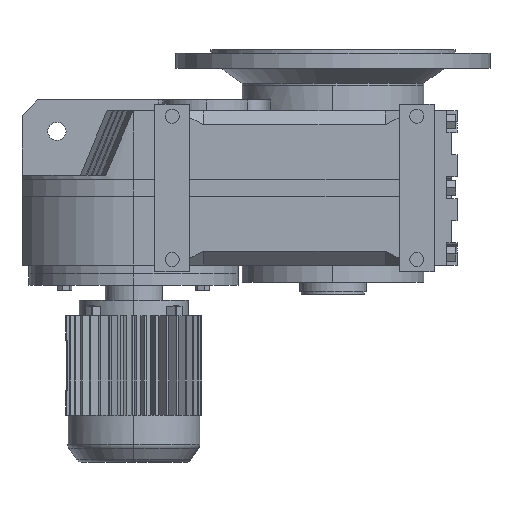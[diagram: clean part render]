
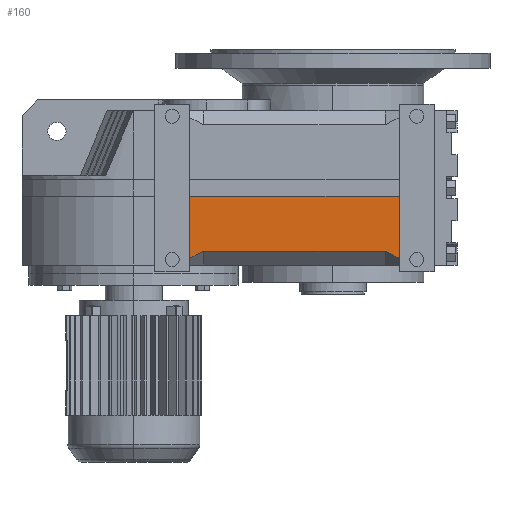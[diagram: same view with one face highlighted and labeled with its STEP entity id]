
A CAD part, left-side view. The second image highlights one B-rep face of the part: STEP entity #160.
In plain terms, the highlighted planar face has unit normal (-1, 0, 0).
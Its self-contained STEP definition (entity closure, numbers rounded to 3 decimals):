
#55 = PLANE('',#56);
#56 = AXIS2_PLACEMENT_3D('',#57,#58,#59);
#57 = CARTESIAN_POINT('',(-166.747,-80.,-1.347));
#58 = DIRECTION('',(0.664,0.342,0.664));
#59 = DIRECTION('',(0.707,0.,-0.707)
  );
#80 = VERTEX_POINT('',#81);
#81 = CARTESIAN_POINT('',(-190.4,-100.,32.6));
#95 = PLANE('',#96);
#96 = AXIS2_PLACEMENT_3D('',#97,#98,#99);
#97 = CARTESIAN_POINT('',(-190.4,-463.,32.6));
#98 = DIRECTION('',(0.707,0.,0.707));
#99 = DIRECTION('',(0.707,0.,-0.707));
#107 = EDGE_CURVE('',#108,#80,#110,.T.);
#108 = VERTEX_POINT('',#109);
#109 = CARTESIAN_POINT('',(-190.4,-80.,22.305));
#110 = SURFACE_CURVE('',#111,(#115,#122),.PCURVE_S1.);
#111 = LINE('',#112,#113);
#112 = CARTESIAN_POINT('',(-190.4,-468.678,222.37));
#113 = VECTOR('',#114,1.);
#114 = DIRECTION('',(0.,-0.889,0.458));
#115 = PCURVE('',#55,#116);
#116 = DEFINITIONAL_REPRESENTATION('',(#117),#121);
#117 = LINE('',#118,#119);
#118 = CARTESIAN_POINT('',(-174.917,-413.622));
#119 = VECTOR('',#120,1.);
#120 = DIRECTION('',(-0.324,-0.946));
#121 = ( GEOMETRIC_REPRESENTATION_CONTEXT(2) 
PARAMETRIC_REPRESENTATION_CONTEXT() REPRESENTATION_CONTEXT('2D SPACE',''
  ) );
#122 = PCURVE('',#123,#128);
#123 = PLANE('',#124);
#124 = AXIS2_PLACEMENT_3D('',#125,#126,#127);
#125 = CARTESIAN_POINT('',(-190.4,-463.,233.4));
#126 = DIRECTION('',(1.,0.,0.));
#127 = DIRECTION('',(0.,0.,-1.));
#128 = DEFINITIONAL_REPRESENTATION('',(#129),#133);
#129 = LINE('',#130,#131);
#130 = CARTESIAN_POINT('',(11.03,-5.678));
#131 = VECTOR('',#132,1.);
#132 = DIRECTION('',(-0.458,-0.889));
#133 = ( GEOMETRIC_REPRESENTATION_CONTEXT(2) 
PARAMETRIC_REPRESENTATION_CONTEXT() REPRESENTATION_CONTEXT('2D SPACE',''
  ) );
#149 = PLANE('',#150);
#150 = AXIS2_PLACEMENT_3D('',#151,#152,#153);
#151 = CARTESIAN_POINT('',(-162.4,-80.,3.));
#152 = DIRECTION('',(0.,-1.,0.));
#153 = DIRECTION('',(0.,0.,-1.));
#160 = ADVANCED_FACE('',(#161),#123,.F.);
#161 = FACE_BOUND('',#162,.T.);
#162 = EDGE_LOOP('',(#163,#186,#187,#210,#238,#266));
#163 = ORIENTED_EDGE('',*,*,#164,.T.);
#164 = EDGE_CURVE('',#165,#108,#167,.T.);
#165 = VERTEX_POINT('',#166);
#166 = CARTESIAN_POINT('',(-190.4,-80.,111.));
#167 = SURFACE_CURVE('',#168,(#172,#179),.PCURVE_S1.);
#168 = LINE('',#169,#170);
#169 = CARTESIAN_POINT('',(-190.4,-80.,233.4));
#170 = VECTOR('',#171,1.);
#171 = DIRECTION('',(0.,0.,-1.));
#172 = PCURVE('',#123,#173);
#173 = DEFINITIONAL_REPRESENTATION('',(#174),#178);
#174 = LINE('',#175,#176);
#175 = CARTESIAN_POINT('',(0.,383.));
#176 = VECTOR('',#177,1.);
#177 = DIRECTION('',(1.,0.));
#178 = ( GEOMETRIC_REPRESENTATION_CONTEXT(2) 
PARAMETRIC_REPRESENTATION_CONTEXT() REPRESENTATION_CONTEXT('2D SPACE',''
  ) );
#179 = PCURVE('',#149,#180);
#180 = DEFINITIONAL_REPRESENTATION('',(#181),#185);
#181 = LINE('',#182,#183);
#182 = CARTESIAN_POINT('',(-230.4,-28.));
#183 = VECTOR('',#184,1.);
#184 = DIRECTION('',(1.,0.));
#185 = ( GEOMETRIC_REPRESENTATION_CONTEXT(2) 
PARAMETRIC_REPRESENTATION_CONTEXT() REPRESENTATION_CONTEXT('2D SPACE',''
  ) );
#186 = ORIENTED_EDGE('',*,*,#107,.T.);
#187 = ORIENTED_EDGE('',*,*,#188,.T.);
#188 = EDGE_CURVE('',#80,#189,#191,.T.);
#189 = VERTEX_POINT('',#190);
#190 = CARTESIAN_POINT('',(-190.4,-360.,32.6));
#191 = SURFACE_CURVE('',#192,(#196,#203),.PCURVE_S1.);
#192 = LINE('',#193,#194);
#193 = CARTESIAN_POINT('',(-190.4,-463.,32.6));
#194 = VECTOR('',#195,1.);
#195 = DIRECTION('',(0.,-1.,0.));
#196 = PCURVE('',#123,#197);
#197 = DEFINITIONAL_REPRESENTATION('',(#198),#202);
#198 = LINE('',#199,#200);
#199 = CARTESIAN_POINT('',(200.8,0.));
#200 = VECTOR('',#201,1.);
#201 = DIRECTION('',(0.,-1.));
#202 = ( GEOMETRIC_REPRESENTATION_CONTEXT(2) 
PARAMETRIC_REPRESENTATION_CONTEXT() REPRESENTATION_CONTEXT('2D SPACE',''
  ) );
#203 = PCURVE('',#95,#204);
#204 = DEFINITIONAL_REPRESENTATION('',(#205),#209);
#205 = LINE('',#206,#207);
#206 = CARTESIAN_POINT('',(0.,0.));
#207 = VECTOR('',#208,1.);
#208 = DIRECTION('',(0.,-1.));
#209 = ( GEOMETRIC_REPRESENTATION_CONTEXT(2) 
PARAMETRIC_REPRESENTATION_CONTEXT() REPRESENTATION_CONTEXT('2D SPACE',''
  ) );
#210 = ORIENTED_EDGE('',*,*,#211,.T.);
#211 = EDGE_CURVE('',#189,#212,#214,.T.);
#212 = VERTEX_POINT('',#213);
#213 = CARTESIAN_POINT('',(-190.4,-380.,22.305));
#214 = SURFACE_CURVE('',#215,(#219,#226),.PCURVE_S1.);
#215 = LINE('',#216,#217);
#216 = CARTESIAN_POINT('',(-190.4,-359.717,32.746));
#217 = VECTOR('',#218,1.);
#218 = DIRECTION('',(0.,-0.889,-0.458));
#219 = PCURVE('',#123,#220);
#220 = DEFINITIONAL_REPRESENTATION('',(#221),#225);
#221 = LINE('',#222,#223);
#222 = CARTESIAN_POINT('',(200.654,103.283));
#223 = VECTOR('',#224,1.);
#224 = DIRECTION('',(0.458,-0.889));
#225 = ( GEOMETRIC_REPRESENTATION_CONTEXT(2) 
PARAMETRIC_REPRESENTATION_CONTEXT() REPRESENTATION_CONTEXT('2D SPACE',''
  ) );
#226 = PCURVE('',#227,#232);
#227 = PLANE('',#228);
#228 = AXIS2_PLACEMENT_3D('',#229,#230,#231);
#229 = CARTESIAN_POINT('',(-166.747,-380.,-1.347));
#230 = DIRECTION('',(0.664,-0.342,0.664));
#231 = DIRECTION('',(0.707,0.,-0.707));
#232 = DEFINITIONAL_REPRESENTATION('',(#233),#237);
#233 = LINE('',#234,#235);
#234 = CARTESIAN_POINT('',(-40.832,21.585));
#235 = VECTOR('',#236,1.);
#236 = DIRECTION('',(0.324,-0.946));
#237 = ( GEOMETRIC_REPRESENTATION_CONTEXT(2) 
PARAMETRIC_REPRESENTATION_CONTEXT() REPRESENTATION_CONTEXT('2D SPACE',''
  ) );
#238 = ORIENTED_EDGE('',*,*,#239,.T.);
#239 = EDGE_CURVE('',#212,#240,#242,.T.);
#240 = VERTEX_POINT('',#241);
#241 = CARTESIAN_POINT('',(-190.4,-380.,111.));
#242 = SURFACE_CURVE('',#243,(#247,#254),.PCURVE_S1.);
#243 = LINE('',#244,#245);
#244 = CARTESIAN_POINT('',(-190.4,-380.,233.4));
#245 = VECTOR('',#246,1.);
#246 = DIRECTION('',(0.,0.,1.));
#247 = PCURVE('',#123,#248);
#248 = DEFINITIONAL_REPRESENTATION('',(#249),#253);
#249 = LINE('',#250,#251);
#250 = CARTESIAN_POINT('',(0.,83.));
#251 = VECTOR('',#252,1.);
#252 = DIRECTION('',(-1.,0.));
#253 = ( GEOMETRIC_REPRESENTATION_CONTEXT(2) 
PARAMETRIC_REPRESENTATION_CONTEXT() REPRESENTATION_CONTEXT('2D SPACE',''
  ) );
#254 = PCURVE('',#255,#260);
#255 = PLANE('',#256);
#256 = AXIS2_PLACEMENT_3D('',#257,#258,#259);
#257 = CARTESIAN_POINT('',(-162.4,-380.,3.));
#258 = DIRECTION('',(0.,1.,0.));
#259 = DIRECTION('',(0.,0.,1.));
#260 = DEFINITIONAL_REPRESENTATION('',(#261),#265);
#261 = LINE('',#262,#263);
#262 = CARTESIAN_POINT('',(230.4,-28.));
#263 = VECTOR('',#264,1.);
#264 = DIRECTION('',(1.,0.));
#265 = ( GEOMETRIC_REPRESENTATION_CONTEXT(2) 
PARAMETRIC_REPRESENTATION_CONTEXT() REPRESENTATION_CONTEXT('2D SPACE',''
  ) );
#266 = ORIENTED_EDGE('',*,*,#267,.T.);
#267 = EDGE_CURVE('',#240,#165,#268,.T.);
#268 = SURFACE_CURVE('',#269,(#273,#280),.PCURVE_S1.);
#269 = LINE('',#270,#271);
#270 = CARTESIAN_POINT('',(-190.4,-463.,111.));
#271 = VECTOR('',#272,1.);
#272 = DIRECTION('',(0.,1.,0.));
#273 = PCURVE('',#123,#274);
#274 = DEFINITIONAL_REPRESENTATION('',(#275),#279);
#275 = LINE('',#276,#277);
#276 = CARTESIAN_POINT('',(122.4,0.));
#277 = VECTOR('',#278,1.);
#278 = DIRECTION('',(0.,1.));
#279 = ( GEOMETRIC_REPRESENTATION_CONTEXT(2) 
PARAMETRIC_REPRESENTATION_CONTEXT() REPRESENTATION_CONTEXT('2D SPACE',''
  ) );
#280 = PCURVE('',#281,#286);
#281 = PLANE('',#282);
#282 = AXIS2_PLACEMENT_3D('',#283,#284,#285);
#283 = CARTESIAN_POINT('',(-14.299,1.,111.));
#284 = DIRECTION('',(0.,0.,-1.));
#285 = DIRECTION('',(-1.,0.,0.));
#286 = DEFINITIONAL_REPRESENTATION('',(#287),#291);
#287 = LINE('',#288,#289);
#288 = CARTESIAN_POINT('',(176.101,-464.));
#289 = VECTOR('',#290,1.);
#290 = DIRECTION('',(0.,1.));
#291 = ( GEOMETRIC_REPRESENTATION_CONTEXT(2) 
PARAMETRIC_REPRESENTATION_CONTEXT() REPRESENTATION_CONTEXT('2D SPACE',''
  ) );
